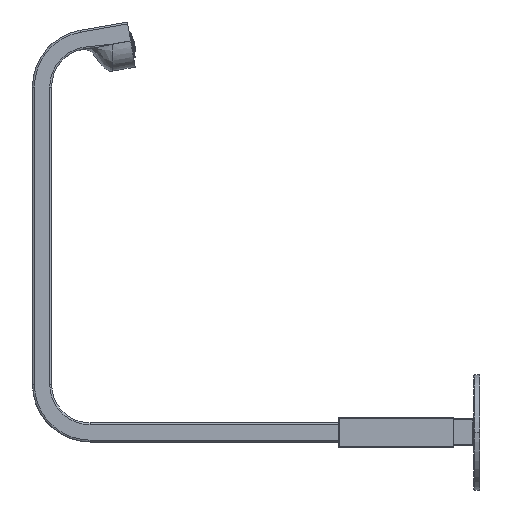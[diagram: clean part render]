
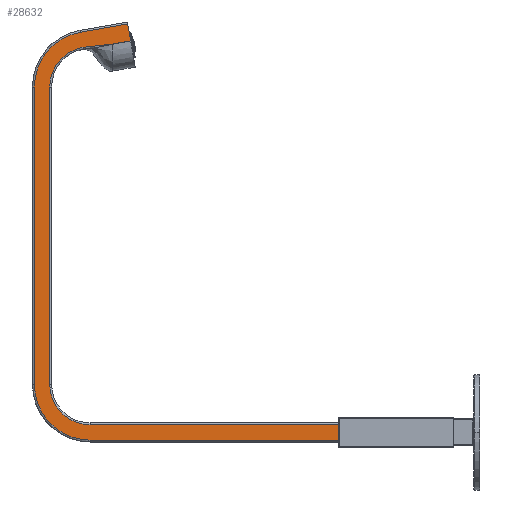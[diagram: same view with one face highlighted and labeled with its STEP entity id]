
A CAD part, left-side view. The second image highlights one B-rep face of the part: STEP entity #28632.
In plain terms, the highlighted planar face has unit normal (-1, 0, 0).
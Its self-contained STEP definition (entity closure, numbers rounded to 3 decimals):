
#26383=DIRECTION('',(0.,-0.174,-0.985));
#26384=VECTOR('',#26383,9.);
#26385=CARTESIAN_POINT('',(-15.,199.416,212.901));
#26386=LINE('',#26385,#26384);
#26397=DIRECTION('',(0.,-1.,0.));
#26398=VECTOR('',#26397,200.);
#26399=CARTESIAN_POINT('',(-15.,219.,-4.));
#26400=LINE('',#26399,#26398);
#26401=CARTESIAN_POINT('',(-15.,219.,25.));
#26402=DIRECTION('',(-1.,0.,0.));
#26403=DIRECTION('',(0.,1.,0.));
#26404=AXIS2_PLACEMENT_3D('',#26401,#26402,#26403);
#26406=DIRECTION('',(0.,0.,-1.));
#26407=VECTOR('',#26406,155.);
#26408=CARTESIAN_POINT('',(-15.,248.,180.));
#26409=LINE('',#26408,#26407);
#26410=CARTESIAN_POINT('',(-15.,219.,180.));
#26411=DIRECTION('',(-1.,0.,0.));
#26412=DIRECTION('',(0.,0.174,0.985));
#26413=AXIS2_PLACEMENT_3D('',#26410,#26411,#26412);
#26415=DIRECTION('',(0.,0.985,-0.174));
#26416=VECTOR('',#26415,25.);
#26417=CARTESIAN_POINT('',(-15.,199.416,212.901));
#26418=LINE('',#26417,#26416);
#26419=CARTESIAN_POINT('',(-15.,197.853,204.037));
#26420=CARTESIAN_POINT('',(-15.,198.807,203.869));
#26421=CARTESIAN_POINT('',(-15.,200.787,203.524));
#26422=CARTESIAN_POINT('',(-15.,203.971,202.983));
#26423=CARTESIAN_POINT('',(-15.,206.231,202.605));
#26424=CARTESIAN_POINT('',(-15.,207.396,202.411));
#26426=CARTESIAN_POINT('',(-15.,207.396,202.411));
#26427=CARTESIAN_POINT('',(-15.,208.134,202.288));
#26428=CARTESIAN_POINT('',(-15.,209.553,202.062));
#26429=CARTESIAN_POINT('',(-15.,211.557,201.778));
#26430=CARTESIAN_POINT('',(-15.,213.283,201.557));
#26431=CARTESIAN_POINT('',(-15.,214.808,201.387));
#26432=CARTESIAN_POINT('',(-15.,216.139,201.264));
#26433=CARTESIAN_POINT('',(-15.,217.304,201.177));
#26434=CARTESIAN_POINT('',(-15.,218.334,201.111));
#26435=CARTESIAN_POINT('',(-15.,219.253,201.057));
#26436=CARTESIAN_POINT('',(-15.,220.082,201.001));
#26437=CARTESIAN_POINT('',(-15.,220.814,200.937));
#26438=CARTESIAN_POINT('',(-15.,221.463,200.864));
#26439=CARTESIAN_POINT('',(-15.,222.056,200.781));
#26440=CARTESIAN_POINT('',(-15.,222.452,200.715));
#26441=CARTESIAN_POINT('',(-15.,222.647,200.681));
#26443=CARTESIAN_POINT('',(-15.,219.,180.));
#26444=DIRECTION('',(-1.,0.,0.));
#26445=DIRECTION('',(0.,0.174,0.985));
#26446=AXIS2_PLACEMENT_3D('',#26443,#26444,#26445);
#26448=DIRECTION('',(0.,0.,-1.));
#26449=VECTOR('',#26448,155.);
#26450=CARTESIAN_POINT('',(-15.,240.,180.));
#26451=LINE('',#26450,#26449);
#26452=CARTESIAN_POINT('',(-15.,219.,25.));
#26453=DIRECTION('',(-1.,0.,0.));
#26454=DIRECTION('',(0.,1.,0.));
#26455=AXIS2_PLACEMENT_3D('',#26452,#26453,#26454);
#26457=DIRECTION('',(0.,-1.,0.));
#26458=VECTOR('',#26457,200.);
#26459=CARTESIAN_POINT('',(-15.,219.,4.));
#26460=LINE('',#26459,#26458);
#26498=DIRECTION('',(0.,0.,-1.));
#26499=VECTOR('',#26498,8.);
#26500=CARTESIAN_POINT('',(-15.,19.,4.));
#26501=LINE('',#26500,#26499);
#27325=CARTESIAN_POINT('',(-15.,197.853,204.037));
#27549=CARTESIAN_POINT('',(-15.,240.,25.));
#27550=CARTESIAN_POINT('',(-15.,219.,4.));
#27551=VERTEX_POINT('',#27549);
#27552=VERTEX_POINT('',#27550);
#27555=CARTESIAN_POINT('',(-15.,240.,180.));
#27556=VERTEX_POINT('',#27555);
#27559=CARTESIAN_POINT('',(-15.,222.647,200.681));
#27560=VERTEX_POINT('',#27559);
#27562=VERTEX_POINT('',#26426);
#27563=VERTEX_POINT('',#27325);
#27564=CARTESIAN_POINT('',(-15.,248.,25.));
#27565=CARTESIAN_POINT('',(-15.,219.,-4.));
#27566=VERTEX_POINT('',#27564);
#27567=VERTEX_POINT('',#27565);
#27572=CARTESIAN_POINT('',(-15.,248.,180.));
#27573=VERTEX_POINT('',#27572);
#27576=CARTESIAN_POINT('',(-15.,224.036,208.559));
#27577=VERTEX_POINT('',#27576);
#27581=CARTESIAN_POINT('',(-15.,199.416,212.901));
#27583=VERTEX_POINT('',#27581);
#27706=CARTESIAN_POINT('',(-15.,19.,4.));
#27707=CARTESIAN_POINT('',(-15.,19.,-4.));
#27708=VERTEX_POINT('',#27706);
#27709=VERTEX_POINT('',#27707);
#28601=CARTESIAN_POINT('',(-15.,19.,-5.));
#28602=DIRECTION('',(-1.,0.,0.));
#28603=DIRECTION('',(0.,0.,1.));
#28604=AXIS2_PLACEMENT_3D('',#28601,#28602,#28603);
#28605=PLANE('',#28604);
#28607=ORIENTED_EDGE('',*,*,#28606,.T.);
#28609=ORIENTED_EDGE('',*,*,#28608,.F.);
#28611=ORIENTED_EDGE('',*,*,#28610,.F.);
#28613=ORIENTED_EDGE('',*,*,#28612,.F.);
#28615=ORIENTED_EDGE('',*,*,#28614,.F.);
#28616=ORIENTED_EDGE('',*,*,#28592,.F.);
#28617=ORIENTED_EDGE('',*,*,#28577,.T.);
#28619=ORIENTED_EDGE('',*,*,#28618,.T.);
#28621=ORIENTED_EDGE('',*,*,#28620,.T.);
#28623=ORIENTED_EDGE('',*,*,#28622,.T.);
#28625=ORIENTED_EDGE('',*,*,#28624,.T.);
#28627=ORIENTED_EDGE('',*,*,#28626,.T.);
#28629=ORIENTED_EDGE('',*,*,#28628,.T.);
#28630=EDGE_LOOP('',(#28607,#28609,#28611,#28613,#28615,#28616,#28617,#28619,
#28621,#28623,#28625,#28627,#28629));
#28631=FACE_OUTER_BOUND('',#28630,.F.);
#28632=ADVANCED_FACE('',(#28631),#28605,.T.);
#26405=CIRCLE('',#26404,29.);
#26414=CIRCLE('',#26413,29.);
#26425=B_SPLINE_CURVE_WITH_KNOTS('',3,(#26419,#26420,#26421,#26422,#26423,
#26424),.UNSPECIFIED.,.F.,.F.,(4,1,1,4),(0.,0.333,
0.667,1.),.UNSPECIFIED.);
#26442=B_SPLINE_CURVE_WITH_KNOTS('',3,(#26426,#26427,#26428,#26429,#26430,
#26431,#26432,#26433,#26434,#26435,#26436,#26437,#26438,#26439,#26440,#26441),
.UNSPECIFIED.,.F.,.F.,(4,1,1,1,1,1,1,1,1,1,1,1,1,4),(0.,0.077,
0.154,0.231,0.308,0.385,
0.462,0.538,0.615,0.692,
0.769,0.846,0.923,1.),.UNSPECIFIED.);
#26447=CIRCLE('',#26446,21.);
#26456=CIRCLE('',#26455,21.);
#28577=EDGE_CURVE('',#27583,#27563,#26386,.T.);
#28592=EDGE_CURVE('',#27583,#27577,#26418,.T.);
#28606=EDGE_CURVE('',#27708,#27709,#26501,.T.);
#28608=EDGE_CURVE('',#27567,#27709,#26400,.T.);
#28610=EDGE_CURVE('',#27566,#27567,#26405,.T.);
#28612=EDGE_CURVE('',#27573,#27566,#26409,.T.);
#28614=EDGE_CURVE('',#27577,#27573,#26414,.T.);
#28618=EDGE_CURVE('',#27563,#27562,#26425,.T.);
#28620=EDGE_CURVE('',#27562,#27560,#26442,.T.);
#28622=EDGE_CURVE('',#27560,#27556,#26447,.T.);
#28624=EDGE_CURVE('',#27556,#27551,#26451,.T.);
#28626=EDGE_CURVE('',#27551,#27552,#26456,.T.);
#28628=EDGE_CURVE('',#27552,#27708,#26460,.T.);
